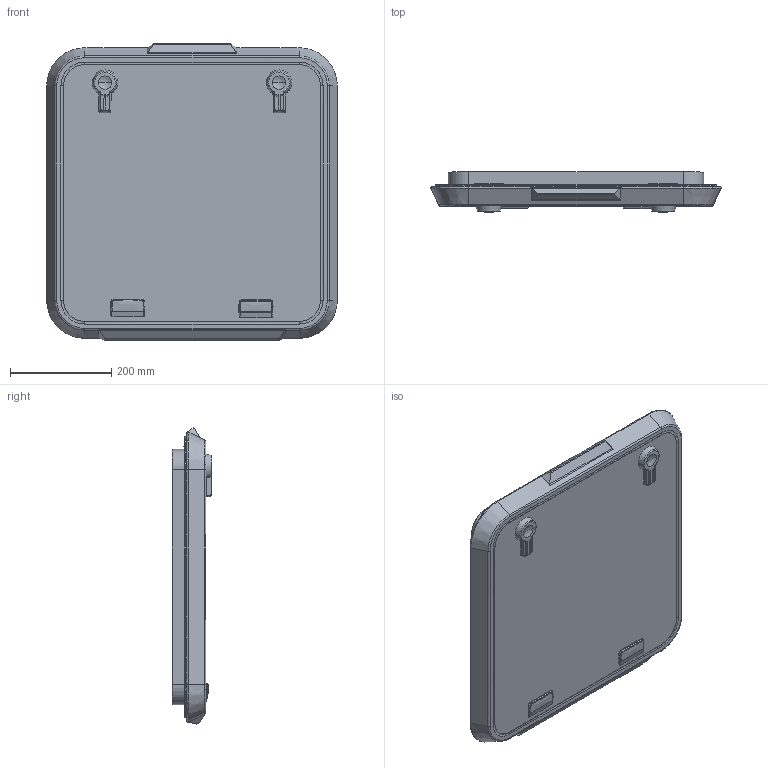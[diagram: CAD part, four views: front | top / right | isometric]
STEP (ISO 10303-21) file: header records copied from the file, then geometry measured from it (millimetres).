
FILE_DESCRIPTION((''),'2;1');
FILE_NAME('LEWMAR_HATCH_OCEAN_60_FLANGE_ASM','2008-02-21T',('skennedy'),(''),'PRO/ENGINEER BY PARAMETRIC TECHNOLOGY CORPORATION, 2007030','PRO/ENGINEER BY PARAMETRIC TECHNOLOGY CORPORATION, 2007030','');
FILE_SCHEMA(('CONFIG_CONTROL_DESIGN'));
Length unit declared in the file: millimetre
Products named in the file (6): OCEAN_ACRYLIC_60; OCEAN_LARGE_HINGE_LEVER_1; FRAME_60_FLANGE; OCEAN_LARGE_HANDLE_1; OCEAN_LARGE_HANDLE_2; LEWMAR_HATCH_OCEAN_60_FLANGE_ASM
Assembly tree (6 placements, depth 2):
  LEWMAR_HATCH_OCEAN_60_FLANGE_ASM
    OCEAN_ACRYLIC_60
    OCEAN_LARGE_HINGE_LEVER_1  x2
    FRAME_60_FLANGE
    OCEAN_LARGE_HANDLE_1
    OCEAN_LARGE_HANDLE_2
Bounding box: 573.98 x 79 x 585.35 mm (x, y, z)
Volume: 3211197.2 mm3; surface area: 1136303.2 mm2
Topology: 7 solids, 8 shells, 867 faces, 2114 edges, 1270 vertices
Faces by surface type: bspline 292, plane 273, cylinder 199, cone 38, torus 34, sphere 24, extrusion 7
Entity records: 31164 total; most frequent: CARTESIAN_POINT 14645, ORIENTED_EDGE 3736, DIRECTION 2781, EDGE_CURVE 1876, VERTEX_POINT 1124, AXIS2_PLACEMENT_3D 943, VECTOR 895, LINE 888
